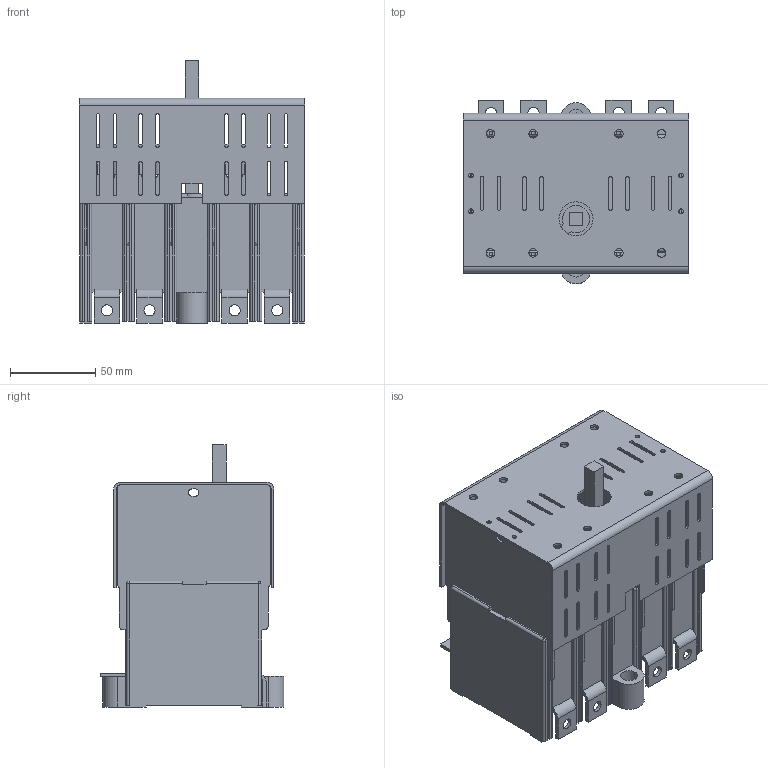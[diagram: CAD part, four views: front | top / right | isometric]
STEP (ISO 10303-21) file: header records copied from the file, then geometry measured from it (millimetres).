
FILE_DESCRIPTION(/* description */ (''),/* implementation_level */ '2;1');
FILE_NAME(/* name */ 'RAB 000 P3 NB, P4 B.stp',/* time_stamp */ '2021-08-19T10:35:54+02:00',/* author */ (''),/* organization */ (''),/* preprocessor_version */ 'ST-DEVELOPER v18.1',/* originating_system */ 'SIEMENS PLM Software NX 1965',/* authorisation */ '');
FILE_SCHEMA (('AUTOMOTIVE_DESIGN { 1 0 10303 214 3 1 1 1 }'));
Length unit declared in the file: millimetre
Products named in the file (1): RAB 000 P3 NB, P4 B_stp
Bounding box: 132.5 x 108 x 154 mm (x, y, z)
Volume: 739299.9 mm3; surface area: 208775.2 mm2
Topology: 1 solids, 1 shells, 1025 faces, 2904 edges, 1862 vertices
Faces by surface type: plane 660, cylinder 341, sphere 23, bspline 1
Full cylindrical faces by diameter (mm): 2.7 x4, 5 x8, 5.8 x2, 6.5 x8, 10 x2, 20 x1
Entity records: 33008 total; most frequent: CARTESIAN_POINT 6023, ORIENTED_EDGE 5690, DIRECTION 5482, EDGE_CURVE 2845, LINE 2096, VECTOR 2096, VERTEX_POINT 1852, AXIS2_PLACEMENT_3D 1693
